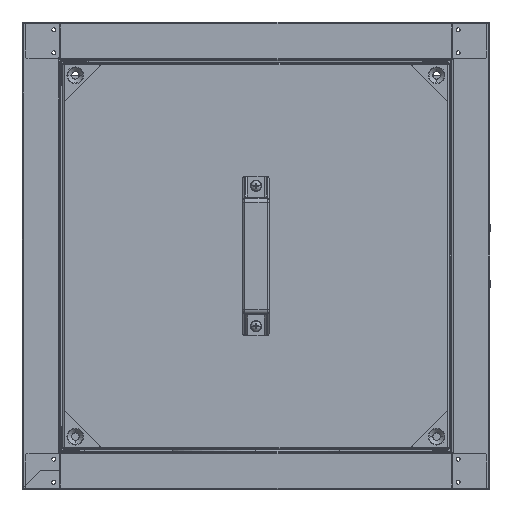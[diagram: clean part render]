
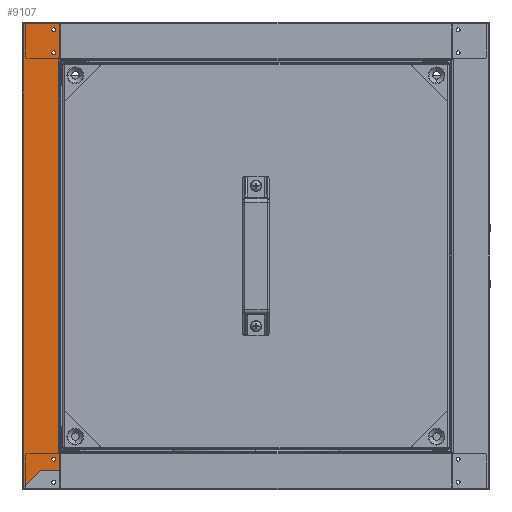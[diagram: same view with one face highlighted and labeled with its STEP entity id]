
A CAD part, left-side view. The second image highlights one B-rep face of the part: STEP entity #9107.
In plain terms, the highlighted planar face has unit normal (-1, 0, 0).
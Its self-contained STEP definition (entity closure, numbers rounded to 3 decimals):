
#636 = CARTESIAN_POINT ( 'NONE',  ( -250., 210.2, 211.65 ) ) ;
#661 = CARTESIAN_POINT ( 'NONE',  ( -250., 216., -217.2 ) ) ;
#731 = ORIENTED_EDGE ( 'NONE', *, *, #43606, .F. ) ;
#1302 = CARTESIAN_POINT ( 'NONE',  ( -250., 210.2, -210.05 ) ) ;
#1745 = CARTESIAN_POINT ( 'NONE',  ( -250., 218.1, 217.2 ) ) ;
#1834 = DIRECTION ( 'NONE',  ( 0., 0., -1. ) ) ;
#1884 = VERTEX_POINT ( 'NONE', #38856 ) ;
#2170 = EDGE_CURVE ( 'NONE', #39141, #47150, #23079, .T. ) ;
#2415 = DIRECTION ( 'NONE',  ( 0., 0., -1. ) ) ;
#3078 = EDGE_LOOP ( 'NONE', ( #48290, #731 ) ) ;
#3648 = CARTESIAN_POINT ( 'NONE',  ( -250., 229.75, -229.1 ) ) ;
#4160 = LINE ( 'NONE', #6128, #23690 ) ;
#4603 = CARTESIAN_POINT ( 'NONE',  ( -250., 210.7, -210.05 ) ) ;
#4899 = CARTESIAN_POINT ( 'NONE',  ( -250., 248., 248. ) ) ;
#5107 = CARTESIAN_POINT ( 'NONE',  ( -250., 210.7, 211.65 ) ) ;
#5699 = EDGE_CURVE ( 'NONE', #16063, #7929, #30631, .T. ) ;
#6128 = CARTESIAN_POINT ( 'NONE',  ( -250., 210.2, 248. ) ) ;
#6147 = EDGE_LOOP ( 'NONE', ( #39055, #23213, #45226, #43005, #10571, #8153, #36515, #46415, #47984 ) ) ;
#6193 = VERTEX_POINT ( 'NONE', #4899 ) ;
#6481 = VECTOR ( 'NONE', #36327, 1000. ) ;
#6654 = VECTOR ( 'NONE', #25879, 1000. ) ;
#6772 = DIRECTION ( 'NONE',  ( -1., 0., 0. ) ) ;
#6871 = AXIS2_PLACEMENT_3D ( 'NONE', #16614, #43843, #20510 ) ;
#6881 = AXIS2_PLACEMENT_3D ( 'NONE', #10502, #37735, #14461 ) ;
#7525 = CARTESIAN_POINT ( 'NONE',  ( -250., 213.9, 241.7 ) ) ;
#7929 = VERTEX_POINT ( 'NONE', #36596 ) ;
#8009 = CIRCLE ( 'NONE', #41300, 2.1 ) ;
#8103 = CARTESIAN_POINT ( 'NONE',  ( -250., 210.2, -229.1 ) ) ;
#8153 = ORIENTED_EDGE ( 'NONE', *, *, #9463, .T. ) ;
#8396 = EDGE_CURVE ( 'NONE', #18354, #1884, #21270, .T. ) ;
#8567 = VECTOR ( 'NONE', #42988, 1000. ) ;
#8706 = DIRECTION ( 'NONE',  ( -1., 0., 0. ) ) ;
#8995 = FACE_BOUND ( 'NONE', #43171, .T. ) ;
#9107 = ADVANCED_FACE ( 'NONE', ( #40079, #19349, #8995, #29743 ), #21704, .F. ) ;
#9262 = EDGE_CURVE ( 'NONE', #44261, #47404, #10804, .T. ) ;
#9463 = EDGE_CURVE ( 'NONE', #21923, #7929, #42473, .T. ) ;
#9528 = EDGE_CURVE ( 'NONE', #16063, #18247, #16873, .T. ) ;
#9896 = VECTOR ( 'NONE', #2415, 1000. ) ;
#10066 = DIRECTION ( 'NONE',  ( 0., 1., 0. ) ) ;
#10502 = CARTESIAN_POINT ( 'NONE',  ( -250., 216., -217.2 ) ) ;
#10571 = ORIENTED_EDGE ( 'NONE', *, *, #36164, .T. ) ;
#10804 = CIRCLE ( 'NONE', #49365, 2.1 ) ;
#11823 = ORIENTED_EDGE ( 'NONE', *, *, #8396, .F. ) ;
#12380 = EDGE_CURVE ( 'NONE', #47404, #44261, #8009, .T. ) ;
#12455 = DIRECTION ( 'NONE',  ( 0., 0., 1. ) ) ;
#13516 = EDGE_CURVE ( 'NONE', #1884, #18354, #32986, .T. ) ;
#14461 = DIRECTION ( 'NONE',  ( 0., -1., 0. ) ) ;
#15785 = CARTESIAN_POINT ( 'NONE',  ( -250., 210.2, -210.05 ) ) ;
#16063 = VERTEX_POINT ( 'NONE', #19152 ) ;
#16431 = VECTOR ( 'NONE', #35039, 1000. ) ;
#16614 = CARTESIAN_POINT ( 'NONE',  ( -250., 216., 217.2 ) ) ;
#16873 = LINE ( 'NONE', #5107, #6481 ) ;
#17338 = LINE ( 'NONE', #636, #26507 ) ;
#18247 = VERTEX_POINT ( 'NONE', #47600 ) ;
#18354 = VERTEX_POINT ( 'NONE', #1745 ) ;
#18418 = CARTESIAN_POINT ( 'NONE',  ( -250., 213.9, -217.2 ) ) ;
#18515 = CARTESIAN_POINT ( 'NONE',  ( -250., 248., -247.35 ) ) ;
#19152 = CARTESIAN_POINT ( 'NONE',  ( -250., 210.7, 211.65 ) ) ;
#19349 = FACE_BOUND ( 'NONE', #25236, .T. ) ;
#19683 = VERTEX_POINT ( 'NONE', #8103 ) ;
#20510 = DIRECTION ( 'NONE',  ( 0., -1., 0. ) ) ;
#21140 = CARTESIAN_POINT ( 'NONE',  ( -250., 218.1, 241.7 ) ) ;
#21270 = CIRCLE ( 'NONE', #6871, 2.1 ) ;
#21704 = PLANE ( 'NONE',  #31112 ) ;
#21923 = VERTEX_POINT ( 'NONE', #1302 ) ;
#22065 = EDGE_CURVE ( 'NONE', #25804, #42081, #36567, .T. ) ;
#22087 = CARTESIAN_POINT ( 'NONE',  ( -250., 216., 241.7 ) ) ;
#22973 = VECTOR ( 'NONE', #27998, 1000. ) ;
#23039 = DIRECTION ( 'NONE',  ( -1., 0., 0. ) ) ;
#23079 = CIRCLE ( 'NONE', #39656, 2.1 ) ;
#23213 = ORIENTED_EDGE ( 'NONE', *, *, #23919, .T. ) ;
#23690 = VECTOR ( 'NONE', #10066, 1000. ) ;
#23919 = EDGE_CURVE ( 'NONE', #6193, #42081, #26018, .T. ) ;
#24332 = ORIENTED_EDGE ( 'NONE', *, *, #13516, .F. ) ;
#24797 = VECTOR ( 'NONE', #1834, 1000. ) ;
#25236 = EDGE_LOOP ( 'NONE', ( #24332, #11823 ) ) ;
#25653 = DIRECTION ( 'NONE',  ( 0., 1., 0. ) ) ;
#25661 = LINE ( 'NONE', #15785, #8567 ) ;
#25804 = VERTEX_POINT ( 'NONE', #3648 ) ;
#25879 = DIRECTION ( 'NONE',  ( 0., 0.707, -0.707 ) ) ;
#26018 = LINE ( 'NONE', #36784, #24797 ) ;
#26036 = DIRECTION ( 'NONE',  ( 0., -1., 0. ) ) ;
#26507 = VECTOR ( 'NONE', #12455, 1000. ) ;
#27998 = DIRECTION ( 'NONE',  ( 0., 1., 0. ) ) ;
#29743 = FACE_OUTER_BOUND ( 'NONE', #6147, .T. ) ;
#30102 = EDGE_CURVE ( 'NONE', #18247, #35359, #17338, .T. ) ;
#30147 = CARTESIAN_POINT ( 'NONE',  ( -250., 216., 217.2 ) ) ;
#30631 = LINE ( 'NONE', #49127, #9896 ) ;
#31112 = AXIS2_PLACEMENT_3D ( 'NONE', #37193, #48956, #25653 ) ;
#31141 = CARTESIAN_POINT ( 'NONE',  ( -250., 210.2, -229.1 ) ) ;
#32914 = EDGE_CURVE ( 'NONE', #25804, #19683, #46250, .T. ) ;
#32986 = CIRCLE ( 'NONE', #48554, 2.1 ) ;
#33362 = CARTESIAN_POINT ( 'NONE',  ( -250., 249.1, -248.45 ) ) ;
#34091 = DIRECTION ( 'NONE',  ( 0., -1., 0. ) ) ;
#35039 = DIRECTION ( 'NONE',  ( 0., -1., 0. ) ) ;
#35359 = VERTEX_POINT ( 'NONE', #42954 ) ;
#35976 = DIRECTION ( 'NONE',  ( 0., -1., 0. ) ) ;
#36164 = EDGE_CURVE ( 'NONE', #19683, #21923, #25661, .T. ) ;
#36327 = DIRECTION ( 'NONE',  ( 0., -1., 0. ) ) ;
#36515 = ORIENTED_EDGE ( 'NONE', *, *, #5699, .F. ) ;
#36567 = LINE ( 'NONE', #33362, #6654 ) ;
#36596 = CARTESIAN_POINT ( 'NONE',  ( -250., 210.7, -210.05 ) ) ;
#36784 = CARTESIAN_POINT ( 'NONE',  ( -250., 248., 248.95 ) ) ;
#37193 = CARTESIAN_POINT ( 'NONE',  ( -250., 250., 248.95 ) ) ;
#37735 = DIRECTION ( 'NONE',  ( -1., 0., 0. ) ) ;
#38694 = CARTESIAN_POINT ( 'NONE',  ( -250., 218.1, -217.2 ) ) ;
#38856 = CARTESIAN_POINT ( 'NONE',  ( -250., 213.9, 217.2 ) ) ;
#39055 = ORIENTED_EDGE ( 'NONE', *, *, #44595, .T. ) ;
#39141 = VERTEX_POINT ( 'NONE', #18418 ) ;
#39656 = AXIS2_PLACEMENT_3D ( 'NONE', #661, #8706, #35976 ) ;
#40079 = FACE_BOUND ( 'NONE', #3078, .T. ) ;
#41300 = AXIS2_PLACEMENT_3D ( 'NONE', #22087, #49353, #26036 ) ;
#41958 = ORIENTED_EDGE ( 'NONE', *, *, #12380, .F. ) ;
#42081 = VERTEX_POINT ( 'NONE', #18515 ) ;
#42473 = LINE ( 'NONE', #4603, #22973 ) ;
#42712 = ORIENTED_EDGE ( 'NONE', *, *, #9262, .F. ) ;
#42954 = CARTESIAN_POINT ( 'NONE',  ( -250., 210.2, 248. ) ) ;
#42988 = DIRECTION ( 'NONE',  ( 0., 0., 1. ) ) ;
#43005 = ORIENTED_EDGE ( 'NONE', *, *, #32914, .T. ) ;
#43171 = EDGE_LOOP ( 'NONE', ( #42712, #41958 ) ) ;
#43606 = EDGE_CURVE ( 'NONE', #47150, #39141, #47472, .T. ) ;
#43843 = DIRECTION ( 'NONE',  ( -1., 0., 0. ) ) ;
#44261 = VERTEX_POINT ( 'NONE', #7525 ) ;
#44595 = EDGE_CURVE ( 'NONE', #35359, #6193, #4160, .T. ) ;
#45226 = ORIENTED_EDGE ( 'NONE', *, *, #22065, .F. ) ;
#46250 = LINE ( 'NONE', #31141, #16431 ) ;
#46358 = CARTESIAN_POINT ( 'NONE',  ( -250., 216., 241.7 ) ) ;
#46415 = ORIENTED_EDGE ( 'NONE', *, *, #9528, .T. ) ;
#47150 = VERTEX_POINT ( 'NONE', #38694 ) ;
#47404 = VERTEX_POINT ( 'NONE', #21140 ) ;
#47472 = CIRCLE ( 'NONE', #6881, 2.1 ) ;
#47600 = CARTESIAN_POINT ( 'NONE',  ( -250., 210.2, 211.65 ) ) ;
#47984 = ORIENTED_EDGE ( 'NONE', *, *, #30102, .T. ) ;
#48290 = ORIENTED_EDGE ( 'NONE', *, *, #2170, .F. ) ;
#48554 = AXIS2_PLACEMENT_3D ( 'NONE', #30147, #6772, #34091 ) ;
#48956 = DIRECTION ( 'NONE',  ( 1., 0., 0. ) ) ;
#49127 = CARTESIAN_POINT ( 'NONE',  ( -250., 210.7, 248.95 ) ) ;
#49353 = DIRECTION ( 'NONE',  ( -1., 0., 0. ) ) ;
#49365 = AXIS2_PLACEMENT_3D ( 'NONE', #46358, #23039, #50322 ) ;
#50322 = DIRECTION ( 'NONE',  ( 0., -1., 0. ) ) ;
